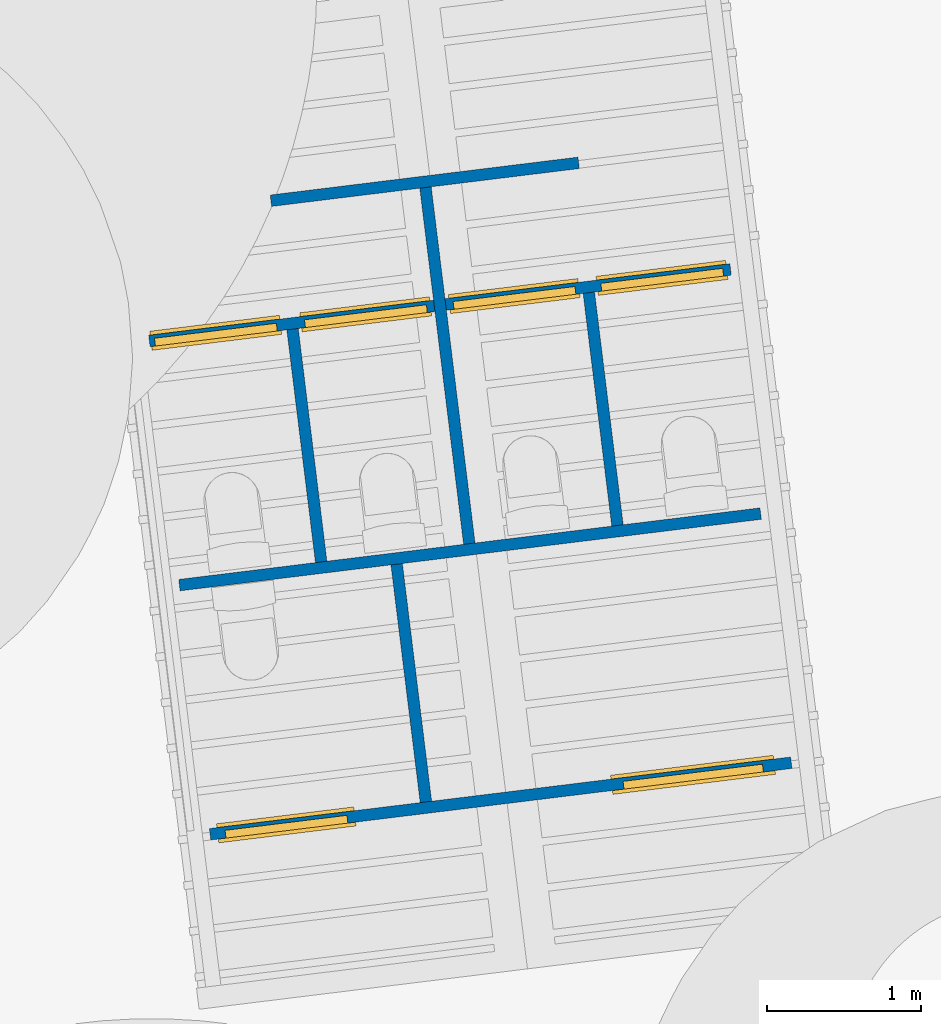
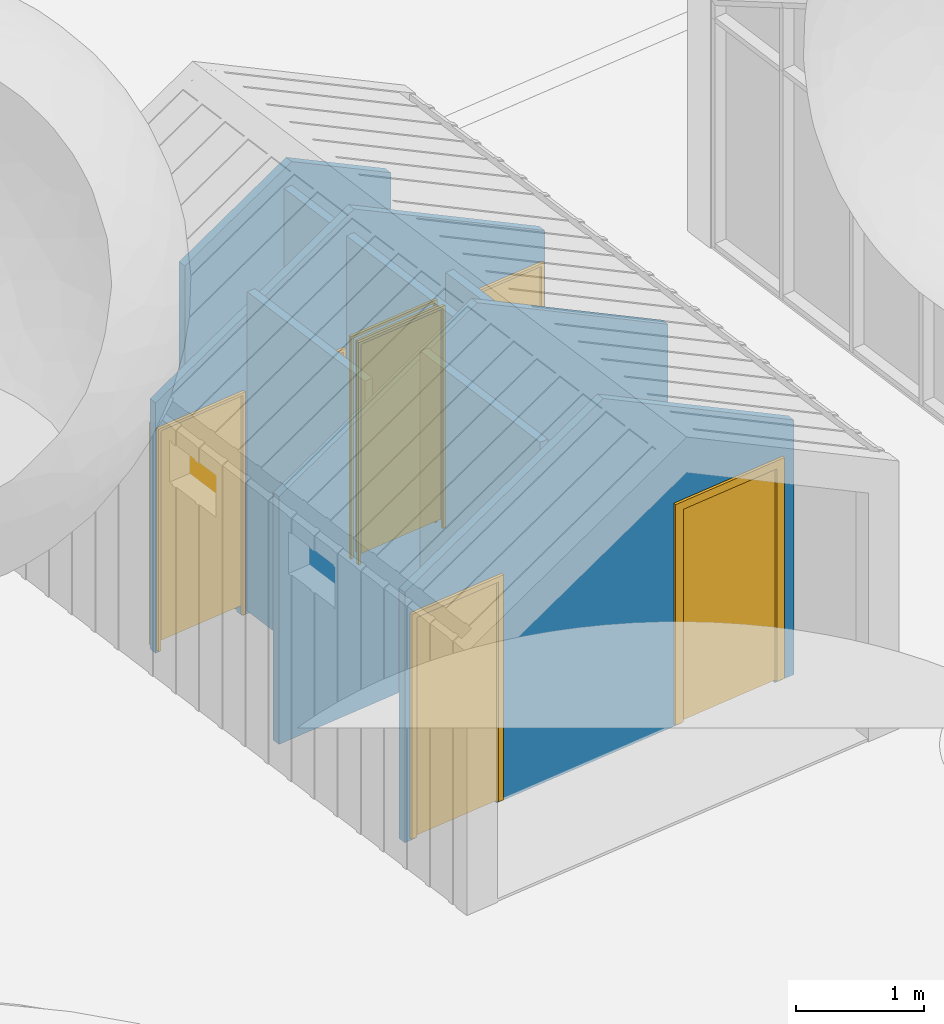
# One storey, part 24 of 75: 8 walls, 6 doors, 13 openings.
"""IFC2X3 building model written with IfcOpenShell, lengths in metres."""

import ifcopenshell
import ifcopenshell.guid

model = None  # the IFC model being written
_history = None  # IfcOwnerHistory: only IFC2X3 demands one
_inside = {}  # id of a spatial element -> (the spatial element, [elements in it])
_under = {}  # id of a project, library or spatial element -> (it, [spatial elements below it])
_declared = {}  # id of a project -> (the project, [libraries it declares])
_typed = {}  # id of a type object -> (the type object, [elements of that type])
_made_of = {}  # id of a material, layer set ... -> (it, [elements and type objects made of it])


def new_model(schema):
    """Start an empty IFC model of exactly this schema.

    Asked for "IFC4X3", IfcOpenShell would pick the latest addendum, in which some entities
    have other attributes; the version numbers below select the first issue.
    IFC2X3 requires an IfcOwnerHistory on every rooted entity: one is made here for all.
    """
    global model, _history
    if schema == "IFC4X3":
        model = ifcopenshell.file(schema_version=(4, 3, 0, 0))
    else:
        model = ifcopenshell.file(schema=schema)
    _inside.clear()
    _under.clear()
    _declared.clear()
    _typed.clear()
    _made_of.clear()
    _history = None
    if model.schema == "IFC2X3":
        org = make("IfcOrganization", Name="unknown")
        user = make(
            "IfcPersonAndOrganization",
            ThePerson=make("IfcPerson", FamilyName="unknown"),
            TheOrganization=org,
        )
        app = make(
            "IfcApplication",
            ApplicationDeveloper=org,
            Version="unknown",
            ApplicationFullName="unknown",
            ApplicationIdentifier="unknown",
        )
        _history = make(
            "IfcOwnerHistory",
            OwningUser=user,
            OwningApplication=app,
            ChangeAction="ADDED",
            CreationDate=0,
        )
    return model


def make(cls, **values):
    """One entity of the class cls with the attributes given. An attribute that is None is left unset."""
    return model.create_entity(
        cls, **{name: value for name, value in values.items() if value is not None}
    )


def entity(cls, *values):
    """Any entity or typed value of the class cls, its attributes in the order of the schema. None: left unset."""
    e = model.create_entity(cls)
    for i, value in enumerate(values):
        if value is not None:
            e[i] = value
    return e


def rooted(cls, **values):
    """An entity with a GlobalId (a new one), such as an element, a storey or a relation."""
    return make(cls, GlobalId=ifcopenshell.guid.new(), OwnerHistory=_history, **values)


def si_unit(unit_type, name, prefix=None):
    """IfcSIUnit, for example si_unit("LENGTHUNIT", "METRE", prefix="MILLI")."""
    return make("IfcSIUnit", UnitType=unit_type, Prefix=prefix, Name=name)


def converted_unit(unit_type, name, factor, base, dimensions=None, offset=None):
    """IfcConversionBasedUnit, such as the inch: factor (a typed value) times the base unit."""
    return make(
        "IfcConversionBasedUnit"
        if offset is None
        else "IfcConversionBasedUnitWithOffset",
        ConversionOffset=offset,
        Dimensions=None
        if dimensions is None
        else entity("IfcDimensionalExponents", *dimensions),
        UnitType=unit_type,
        Name=name,
        ConversionFactor=make(
            "IfcMeasureWithUnit", ValueComponent=factor, UnitComponent=base
        ),
    )


def derived_unit(unit_type, elements):
    """IfcDerivedUnit: a product of units, each with its exponent."""
    return make(
        "IfcDerivedUnit",
        Elements=[
            make("IfcDerivedUnitElement", Unit=unit, Exponent=power)
            for unit, power in elements
        ],
        UnitType=unit_type,
    )


def assignment(units):
    """IfcUnitAssignment: the units of a project."""
    return None if units is None else make("IfcUnitAssignment", Units=units)


def point(xyz):
    """IfcCartesianPoint."""
    return None if xyz is None else make("IfcCartesianPoint", Coordinates=xyz)


def direction(xyz):
    """IfcDirection."""
    return None if xyz is None else make("IfcDirection", DirectionRatios=xyz)


def frame(location, z_axis=None, x_axis=None):
    """IfcAxis2Placement3D, a coordinate frame: its origin and axes. An axis left out is left unset."""
    return make(
        "IfcAxis2Placement3D",
        Location=point(location),
        Axis=direction(z_axis),
        RefDirection=direction(x_axis),
    )


def frame_2d(location, x_axis=None):
    """IfcAxis2Placement2D, a coordinate frame in the plane: its origin and x axis."""
    return make(
        "IfcAxis2Placement2D", Location=point(location), RefDirection=direction(x_axis)
    )


def origin():
    """The frame at (0, 0, 0) with its axes left unset."""
    return frame((0.0, 0.0, 0.0))


def origin_2d_with_axis():
    """The frame at (0, 0) in the plane with the x axis (1, 0) written out."""
    return frame_2d((0.0, 0.0), x_axis=(1.0, 0.0))


def place(relative_to, where):
    """IfcLocalPlacement: puts the frame where relative to a parent placement (None: the world)."""
    return make(
        "IfcLocalPlacement", PlacementRelTo=relative_to, RelativePlacement=where
    )


def context(
    kind, dimensions, precision=None, world=None, true_north=None, identifier=None
):
    """IfcGeometricRepresentationContext, for example the 3D "Model" context."""
    return make(
        "IfcGeometricRepresentationContext",
        ContextIdentifier=identifier,
        ContextType=kind,
        CoordinateSpaceDimension=dimensions,
        Precision=precision,
        WorldCoordinateSystem=world,
        TrueNorth=true_north,
    )


def subcontext(parent, identifier, kind, view, scale=None):
    """IfcGeometricRepresentationSubContext, for example "Body" below "Model"."""
    return make(
        "IfcGeometricRepresentationSubContext",
        ContextIdentifier=identifier,
        ContextType=kind,
        ParentContext=parent,
        TargetScale=scale,
        TargetView=view,
    )


def project(units=None, contexts=None):
    """IfcProject with its units and contexts."""
    return rooted(
        "IfcProject",
        Name="project",
        RepresentationContexts=contexts,
        UnitsInContext=assignment(units),
    )


def spatial(cls, under=None, at=None, **own):
    """A site, building, storey or space (cls), placed at a placement, below another one or the project."""
    s = rooted(cls, ObjectPlacement=at, **own)
    if under is not None:
        _under.setdefault(under.id(), (under, []))[1].append(s)
    return s


def polyline(points):
    """IfcPolyline through the points."""
    return make("IfcPolyline", Points=[point(p) for p in points])


def profile(cls, at=None, kind="AREA", **sizes):
    """A parametric profile (cls). Its sizes go by their IFC names, for example OverallWidth=200.0."""
    return make(cls, ProfileType=kind, Position=at, **sizes)


def rectangle(**sizes):
    """IfcRectangleProfileDef."""
    return profile("IfcRectangleProfileDef", **sizes)


def outline(outer, holes=None, kind="AREA"):
    """IfcArbitraryClosedProfileDef: a profile drawn as a closed curve; with holes, ...WithVoids."""
    if holes is None:
        return make("IfcArbitraryClosedProfileDef", ProfileType=kind, OuterCurve=outer)
    return make(
        "IfcArbitraryProfileDefWithVoids",
        ProfileType=kind,
        OuterCurve=outer,
        InnerCurves=holes,
    )


def extrude(swept, where, along, depth):
    """IfcExtrudedAreaSolid: the profile swept, set in the frame where, extruded along a direction by depth."""
    return make(
        "IfcExtrudedAreaSolid",
        SweptArea=swept,
        Position=where,
        ExtrudedDirection=direction(along),
        Depth=depth,
    )


def clip(a, b, op="DIFFERENCE"):
    """IfcBooleanClippingResult: the solid a cut by the half space b."""
    return make(
        "IfcBooleanClippingResult", Operator=op, FirstOperand=a, SecondOperand=b
    )


def halfspace(plane, agree):
    """IfcHalfSpaceSolid: all space on one side of the plane z = 0 of the frame plane."""
    return make(
        "IfcHalfSpaceSolid",
        BaseSurface=make("IfcPlane", Position=plane),
        AgreementFlag=agree,
    )


def bounded_halfspace(plane, agree, where, boundary):
    """IfcPolygonalBoundedHalfSpace: a half space limited to a polygon's prism."""
    return make(
        "IfcPolygonalBoundedHalfSpace",
        BaseSurface=make("IfcPlane", Position=plane),
        AgreementFlag=agree,
        Position=where,
        PolygonalBoundary=boundary,
    )


def shape(context_of_items, identifier, shape_type, items):
    """IfcShapeRepresentation: the items that make up one representation, for example the "Body"."""
    return make(
        "IfcShapeRepresentation",
        ContextOfItems=context_of_items,
        RepresentationIdentifier=identifier,
        RepresentationType=shape_type,
        Items=items,
    )


def source(mapping_origin, context_of_items, identifier, shape_type, items):
    """IfcRepresentationMap: a shape defined once, which mapped items show again and again."""
    return make(
        "IfcRepresentationMap",
        MappingOrigin=mapping_origin,
        MappedRepresentation=shape(context_of_items, identifier, shape_type, items),
    )


def transform(
    local_origin,
    x_axis=None,
    y_axis=None,
    z_axis=None,
    scale=None,
    scale2=None,
    scale3=None,
    uniform=True,
):
    """IfcCartesianTransformationOperator3D, or its non-uniform kind. x_axis, y_axis, z_axis: its Axis1, 2, 3."""
    if uniform:
        return make(
            "IfcCartesianTransformationOperator3D",
            Axis1=direction(x_axis),
            Axis2=direction(y_axis),
            LocalOrigin=point(local_origin),
            Scale=scale,
            Axis3=direction(z_axis),
        )
    return make(
        "IfcCartesianTransformationOperator3DnonUniform",
        Axis1=direction(x_axis),
        Axis2=direction(y_axis),
        LocalOrigin=point(local_origin),
        Scale=scale,
        Axis3=direction(z_axis),
        Scale2=scale2,
        Scale3=scale3,
    )


def mapped(mapping_source, mapping_target):
    """IfcMappedItem: shows the shape of a source again, moved by a transform."""
    return make(
        "IfcMappedItem", MappingSource=mapping_source, MappingTarget=mapping_target
    )


def material(Name=None, Category=None):
    """IfcMaterial."""
    return make("IfcMaterial", Name=Name, Category=Category)


def material_list(materials):
    """IfcMaterialList."""
    return make("IfcMaterialList", Materials=materials)


def layer(
    of_material, thickness, ventilated=None, Name=None, Category=None, Priority=None
):
    """IfcMaterialLayer: one layer of a wall or slab, of a material (None: an air gap)."""
    return make(
        "IfcMaterialLayer",
        Material=of_material,
        LayerThickness=thickness,
        IsVentilated=ventilated,
        Name=Name,
        Category=Category,
        Priority=Priority,
    )


def layer_set(layers, Name=None):
    """IfcMaterialLayerSet."""
    return make("IfcMaterialLayerSet", MaterialLayers=layers, LayerSetName=Name)


def layer_usage(for_layer_set, set_direction, sense, offset, extent=None):
    """IfcMaterialLayerSetUsage: how a layer set lies in its element."""
    return make(
        "IfcMaterialLayerSetUsage",
        ForLayerSet=for_layer_set,
        LayerSetDirection=set_direction,
        DirectionSense=sense,
        OffsetFromReferenceLine=offset,
        ReferenceExtent=extent,
    )


def made_of(thing, what):
    """Note that an element or type object is made of a material, layer set ...; save() writes the relation."""
    if what is not None:
        _made_of.setdefault(what.id(), (what, []))[1].append(thing)
    return thing


def type_object(cls, material=None, **own):
    """A type object (cls), such as IfcWallType, which elements share."""
    return made_of(rooted(cls, **own), material)


def type_shapes(of_type, sources):
    """Give a type object the sources (RepresentationMaps) that its elements show as mapped items."""
    of_type.RepresentationMaps = sources


def element(
    cls,
    number,
    at=None,
    inside=None,
    cuts=None,
    type_object=None,
    material=None,
    context=None,
    identifier="Body",
    shape_type=None,
    held_by="IfcProductDefinitionShape",
    body=None,
    shapes=None,
    **own,
):
    """One element of the class cls, such as IfcWall. Its Tag is "e" and its number.

    at: its placement. inside: the storey or other place that contains it. cuts: it is an
    opening in that element (IfcRelVoidsElement). A single representation is given by context,
    identifier, shape_type and body (its items); several are given by shapes. held_by: the class
    of the entity that holds the representations. save() writes the other relations.
    """
    e = rooted(cls, Tag="e%d" % number, ObjectPlacement=at, **own)
    if body is not None:
        shapes = [shape(context, identifier, shape_type, body)]
    if shapes is not None:
        e.Representation = make(held_by, Representations=shapes)
    if inside is not None:
        _inside.setdefault(inside.id(), (inside, []))[1].append(e)
    if cuts is not None:
        rooted(
            "IfcRelVoidsElement", RelatingBuildingElement=cuts, RelatedOpeningElement=e
        )
    if type_object is not None:
        _typed.setdefault(type_object.id(), (type_object, []))[1].append(e)
    return made_of(e, material)


def fill(opening, filler):
    """IfcRelFillsElement: the door or window that sits in an opening."""
    return rooted(
        "IfcRelFillsElement",
        RelatingOpeningElement=opening,
        RelatedBuildingElement=filler,
    )


def aggregate(whole, parts):
    """IfcRelAggregates: a whole, such as a stair, and the parts it consists of."""
    return rooted("IfcRelAggregates", RelatingObject=whole, RelatedObjects=parts)


def save(model, path):
    """Write the relations noted so far, then the file.

    IfcRelAggregates (storeys below a building ...), IfcRelContainedInSpatialStructure (elements
    in a storey), IfcRelDefinesByType, IfcRelAssociatesMaterial and IfcRelDeclares: one each for
    every whole, place, type object, material and project.
    """
    for whole, parts in _under.values():
        aggregate(whole, parts)
    for where, things in _inside.values():
        rooted(
            "IfcRelContainedInSpatialStructure",
            RelatedElements=things,
            RelatingStructure=where,
        )
    for kind, things in _typed.values():
        rooted("IfcRelDefinesByType", RelatedObjects=things, RelatingType=kind)
    for what, things in _made_of.values():
        rooted("IfcRelAssociatesMaterial", RelatedObjects=things, RelatingMaterial=what)
    for by, libraries in _declared.values():
        rooted("IfcRelDeclares", RelatingContext=by, RelatedDefinitions=libraries)
    model.write(path)


model = new_model("IFC2X3")

# Units and contexts
model_context = context("Model", 3, precision=1e-05, world=origin(), true_north=direction((6.123031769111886e-17, 1.0)))
body_context = subcontext(model_context, "Body", "Model", "MODEL_VIEW")
ifc_project = project(units=[si_unit("LENGTHUNIT", "METRE"), si_unit("AREAUNIT", "SQUARE_METRE"), si_unit("VOLUMEUNIT", "CUBIC_METRE"), converted_unit("PLANEANGLEUNIT", "DEGREE", entity("IfcRatioMeasure", 0.017453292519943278), si_unit("PLANEANGLEUNIT", "RADIAN"), dimensions=[0, 0, 0, 0, 0, 0, 0]), si_unit("MASSUNIT", "GRAM", prefix="KILO"), derived_unit("MASSDENSITYUNIT", [(si_unit("MASSUNIT", "GRAM", prefix="KILO"), 1), (si_unit("LENGTHUNIT", "METRE"), -3)]), derived_unit("IONCONCENTRATIONUNIT", [(si_unit("MASSUNIT", "GRAM", prefix="KILO"), 1), (si_unit("LENGTHUNIT", "METRE"), -3)]), derived_unit("MOMENTOFINERTIAUNIT", [(si_unit("LENGTHUNIT", "METRE"), 4)]), si_unit("TIMEUNIT", "SECOND"), si_unit("FREQUENCYUNIT", "HERTZ"), si_unit("THERMODYNAMICTEMPERATUREUNIT", "DEGREE_CELSIUS"), derived_unit("THERMALTRANSMITTANCEUNIT", [(si_unit("MASSUNIT", "GRAM", prefix="KILO"), 1), (si_unit("THERMODYNAMICTEMPERATUREUNIT", "KELVIN"), -1), (si_unit("TIMEUNIT", "SECOND"), -3)]), derived_unit("THERMALCONDUCTANCEUNIT", [(si_unit("MASSUNIT", "GRAM", prefix="KILO"), 1), (si_unit("THERMODYNAMICTEMPERATUREUNIT", "KELVIN"), -1), (si_unit("TIMEUNIT", "SECOND"), -3), (si_unit("LENGTHUNIT", "METRE"), 1)]), derived_unit("VOLUMETRICFLOWRATEUNIT", [(si_unit("LENGTHUNIT", "METRE"), 3), (si_unit("TIMEUNIT", "SECOND"), -1)]), derived_unit("MASSFLOWRATEUNIT", [(si_unit("MASSUNIT", "GRAM", prefix="KILO"), 1), (si_unit("TIMEUNIT", "SECOND"), -1)]), derived_unit("ROTATIONALFREQUENCYUNIT", [(si_unit("TIMEUNIT", "SECOND"), -1)]), si_unit("ELECTRICCURRENTUNIT", "AMPERE"), si_unit("ELECTRICVOLTAGEUNIT", "VOLT"), si_unit("POWERUNIT", "WATT"), si_unit("FORCEUNIT", "NEWTON", prefix="KILO"), si_unit("ILLUMINANCEUNIT", "LUX"), si_unit("LUMINOUSFLUXUNIT", "LUMEN"), si_unit("LUMINOUSINTENSITYUNIT", "CANDELA"), derived_unit("USERDEFINED", [(si_unit("MASSUNIT", "GRAM", prefix="KILO"), -1), (si_unit("LENGTHUNIT", "METRE"), -2), (si_unit("TIMEUNIT", "SECOND"), 3), (si_unit("LUMINOUSFLUXUNIT", "LUMEN"), 1)]), derived_unit("USERDEFINED", [(si_unit("MASSUNIT", "GRAM", prefix="KILO"), 1), (si_unit("TIMEUNIT", "SECOND"), -3), (si_unit("LENGTHUNIT", "METRE"), 3), (si_unit("ELECTRICCURRENTUNIT", "AMPERE"), -2)]), derived_unit("SOUNDPOWERUNIT", [(si_unit("MASSUNIT", "GRAM", prefix="KILO"), 1), (si_unit("TIMEUNIT", "SECOND"), -3), (si_unit("LENGTHUNIT", "METRE"), 2)]), derived_unit("SOUNDPRESSUREUNIT", [(si_unit("MASSUNIT", "GRAM", prefix="KILO"), 1), (si_unit("LENGTHUNIT", "METRE"), -1), (si_unit("TIMEUNIT", "SECOND"), -2)]), derived_unit("LINEARVELOCITYUNIT", [(si_unit("LENGTHUNIT", "METRE"), 1), (si_unit("TIMEUNIT", "SECOND"), -1)]), si_unit("PRESSUREUNIT", "PASCAL"), derived_unit("USERDEFINED", [(si_unit("MASSUNIT", "GRAM", prefix="KILO"), 1), (si_unit("LENGTHUNIT", "METRE"), -2), (si_unit("TIMEUNIT", "SECOND"), -2)]), derived_unit("LINEARFORCEUNIT", [(si_unit("MASSUNIT", "GRAM", prefix="KILO"), 1), (si_unit("TIMEUNIT", "SECOND"), -2)]), derived_unit("PLANARFORCEUNIT", [(si_unit("MASSUNIT", "GRAM", prefix="KILO"), 1), (si_unit("LENGTHUNIT", "METRE"), -1), (si_unit("TIMEUNIT", "SECOND"), -2)]), derived_unit("SPECIFICHEATCAPACITYUNIT", [(si_unit("THERMODYNAMICTEMPERATUREUNIT", "KELVIN"), -1), (si_unit("LENGTHUNIT", "METRE"), 2), (si_unit("TIMEUNIT", "SECOND"), -2)]), derived_unit("HEATINGVALUEUNIT", [(si_unit("LENGTHUNIT", "METRE"), 2), (si_unit("TIMEUNIT", "SECOND"), -2)]), derived_unit("VAPORPERMEABILITYUNIT", [(si_unit("LENGTHUNIT", "METRE"), -1), (si_unit("TIMEUNIT", "SECOND"), 1)]), derived_unit("DYNAMICVISCOSITYUNIT", [(si_unit("MASSUNIT", "GRAM", prefix="KILO"), 1), (si_unit("TIMEUNIT", "SECOND"), -1), (si_unit("LENGTHUNIT", "METRE"), -1)]), derived_unit("THERMALEXPANSIONCOEFFICIENTUNIT", [(si_unit("THERMODYNAMICTEMPERATUREUNIT", "KELVIN"), -1)]), derived_unit("MODULUSOFELASTICITYUNIT", [(si_unit("MASSUNIT", "GRAM", prefix="KILO"), 1), (si_unit("LENGTHUNIT", "METRE"), -1), (si_unit("TIMEUNIT", "SECOND"), -2)]), derived_unit("ISOTHERMALMOISTURECAPACITYUNIT", [(si_unit("LENGTHUNIT", "METRE"), 3), (si_unit("MASSUNIT", "GRAM", prefix="KILO"), -1)]), derived_unit("MOISTUREDIFFUSIVITYUNIT", [(si_unit("TIMEUNIT", "SECOND"), -1), (si_unit("LENGTHUNIT", "METRE"), 2)])], contexts=[model_context])

# Site, building, storey
site_placement = place(None, origin())
site = spatial("IfcSite", under=ifc_project, at=site_placement, Name="Default", CompositionType="ELEMENT")
building_placement = place(site_placement, origin())
building = spatial("IfcBuilding", under=site, at=building_placement, Name="Projeto", CompositionType="ELEMENT")
storey_placement = place(building_placement, origin())
storey = spatial("IfcBuildingStorey", under=building, at=storey_placement, Name="Nível 1", CompositionType="ELEMENT", Elevation=0.0)

# Wall
ifc_material_1 = material(Name="<Unnamed>")
ifc_layer_1 = layer(ifc_material_1, 0.03)
ifc_layer_2 = layer(ifc_material_1, 0.015)
ifc_layer_3 = layer(ifc_material_1, 0.03)
ifc_layer_set = layer_set([ifc_layer_1, ifc_layer_2, ifc_layer_3], Name="Parede básica:7,5cm")
ifc_layer_usage_1 = layer_usage(ifc_layer_set, "AXIS2", "NEGATIVE", 0.0375)
wall_type = type_object("IfcWallType", Name="Parede básica:7,5cm", PredefinedType="STANDARD", material=ifc_layer_set)
wall_1_placement = place(storey_placement, frame((-18.2784630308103, 28.71901376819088, -2.5749999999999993), z_axis=(0.0, 0.0, 1.0), x_axis=(0.9925113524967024, 0.12215242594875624, 0.0)))
element("IfcWallStandardCase", 1, at=wall_1_placement, inside=storey, type_object=wall_type, material=ifc_layer_usage_1, Name="Parede básica:7,5cm", ObjectType="Parede básica:7,5cm", context=body_context, shape_type="Clipping", body=[
    clip(clip(clip(extrude(rectangle(XDim=3.814523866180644, YDim=0.07499999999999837, at=frame_2d((1.907261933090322, -1.6306400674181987e-15), x_axis=(-1.0, 0.0))), origin(), (0.0, 0.0, 1.0), 3.4000000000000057), bounded_halfspace(frame((3.814523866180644, -0.03749999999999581, 0.0), z_axis=(0.0, 0.0, 1.0), x_axis=(0.0, -1.0, 0.0)), True, frame((3.814523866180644, -0.03749999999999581, 0.0), z_axis=(0.0, 0.0, 1.0), x_axis=(0.0, -1.0, 0.0)), polyline([(0.0, 0.0), (-0.07499999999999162, 0.0), (-0.07499999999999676, -0.8975000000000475), (-0.07499999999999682, -0.9725000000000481), (-0.07499999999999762, -1.8697619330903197), (-0.07499999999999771, -1.94476193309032), (-0.07499999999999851, -2.8420238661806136), (-0.07499999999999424, -2.9170238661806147), (-0.07499999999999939, -3.814523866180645), (0.0, -3.8145238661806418), (0.0, 0.0)]))), halfspace(frame((0.0, -0.03750000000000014, 2.3659517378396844), z_axis=(-0.46947156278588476, 0.0, 0.8829475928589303), x_axis=(0.0, 1.0, 0.0)), False)), halfspace(frame((1.9447619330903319, -0.03750000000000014, 3.4000000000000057), z_axis=(0.4694715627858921, 0.0, 0.8829475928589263), x_axis=(0.0, 1.0, 0.0)), False)),
])

# Wall, openings, doors
wall_2_placement = place(storey_placement, frame((-18.07874381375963, 27.096257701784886, -2.6), z_axis=(0.0, 0.0, 1.0), x_axis=(0.9925113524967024, 0.12215242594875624, 0.0)))
wall_2 = element("IfcWallStandardCase", 2, at=wall_2_placement, inside=storey, type_object=wall_type, material=ifc_layer_usage_1, Name="Parede básica:7,5cm", ObjectType="Parede básica:7,5cm", context=body_context, shape_type="Clipping", body=[
    clip(clip(extrude(rectangle(XDim=3.8145238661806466, YDim=0.07499999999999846, at=frame_2d((1.9072619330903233, 4.0245584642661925e-16), x_axis=(-1.0, 0.0))), origin(), (0.0, 0.0, 1.0), 3.4250000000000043), halfspace(frame((0.0, -0.03749999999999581, 2.3909517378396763), z_axis=(-0.46947156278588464, 0.0, 0.8829475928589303), x_axis=(0.0, 1.0, 0.0)), False)), halfspace(frame((1.9447619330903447, -0.03749999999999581, 3.4250000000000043), z_axis=(0.46947156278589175, 0.0, 0.8829475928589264), x_axis=(0.0, 1.0, 0.0)), False)),
])
opening_1_placement = place(wall_2_placement, origin())
element("IfcOpeningElement", 3, at=opening_1_placement, cuts=wall_2, Name="Parede básica:7,5cm", ObjectType="Opening", context=body_context, shape_type="SweptSolid", body=[
    extrude(rectangle(XDim=2.124999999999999, YDim=0.8000000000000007, at=frame_2d((0.0, -3.3306690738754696e-16), x_axis=(0.0, 1.0))), frame((0.49999999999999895, 0.03750000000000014, 1.0625), z_axis=(0.0, -1.0, 0.0), x_axis=(1.0, 0.0, 0.0)), (0.0, 0.0, 1.0), 0.075),
])
opening_2_placement = place(wall_2_placement, origin())
element("IfcOpeningElement", 4, at=opening_2_placement, cuts=wall_2, Name="Parede básica:7,5cm", ObjectType="Opening", context=body_context, shape_type="SweptSolid", body=[
    extrude(rectangle(XDim=2.0569999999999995, YDim=0.914999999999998, at=frame_2d((0.0, -3.3306690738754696e-16), x_axis=(0.0, 1.0))), frame((3.1695238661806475, 0.03750000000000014, 1.0285000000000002), z_axis=(0.0, -1.0, 0.0), x_axis=(1.0, 0.0, 0.0)), (0.0, 0.0, 1.0), 0.07500000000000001),
])
opening_3_placement = place(wall_2_placement, frame((3.6270238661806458, 0.037500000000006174, 0.025000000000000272)))
opening_3 = element("IfcOpeningElement", 5, at=opening_3_placement, cuts=wall_2, Name="M_Folha única:0915 x 2032mm:1", ObjectType="Opening", context=body_context, shape_type="SweptSolid", body=[
    extrude(rectangle(XDim=0.9149999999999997, YDim=2.0319999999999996, at=frame_2d((1.0159999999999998, 0.4575000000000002), x_axis=(0.0, -1.0))), frame((0.0, 0.0, 0.0), z_axis=(0.0, -1.0, 0.0), x_axis=(0.0, 0.0, 1.0)), (0.0, 0.0, 1.0), 0.075),
])
opening_4_placement = place(wall_2_placement, frame((0.8999999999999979, 0.03750000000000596, 0.025000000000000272)))
opening_4 = element("IfcOpeningElement", 6, at=opening_4_placement, cuts=wall_2, Name="M_Folha única:0800 x 2100mm:1", ObjectType="Opening", context=body_context, shape_type="SweptSolid", body=[
    extrude(rectangle(XDim=0.7999999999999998, YDim=2.099999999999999, at=frame_2d((1.0499999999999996, 0.3999999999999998), x_axis=(0.0, 1.0))), frame((0.0, 0.0, 0.0), z_axis=(0.0, -1.0, 0.0), x_axis=(0.0, 0.0, 1.0)), (0.0, 0.0, 1.0), 0.075),
])
ifc_material_2 = material(Name="Porta - Batente")
ifc_material_3 = material(Name="Porta - Painel")
ifc_material_list = material_list([ifc_material_2, ifc_material_3])
door_style_1 = type_object("IfcDoorStyle", Name="M_Folha única:0800 x 2100mm", ConstructionType="NOTDEFINED", OperationType="NOTDEFINED", ParameterTakesPrecedence=False, Sizeable=False, material=ifc_material_list)
shared_shape_1 = source(origin(), body_context, "Body", "SweptSolid", [
    extrude(outline(polyline([(-0.45, -1.0874999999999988), (0.4499999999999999, -1.0874999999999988), (0.4499999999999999, 1.0625000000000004), (0.3999999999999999, 1.0625000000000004), (0.3999999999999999, -1.0375000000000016), (-0.39999999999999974, -1.0375000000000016), (-0.39999999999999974, 1.0625000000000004), (-0.45, 1.0625000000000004), (-0.45, -1.0874999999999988)])), frame((0.40000000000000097, 0.07500000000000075, 1.0625000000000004), z_axis=(0.0, 1.0, 0.0), x_axis=(1.0, 0.0, 0.0)), (0.0, 0.0, 1.0), 0.024999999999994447),
    extrude(outline(polyline([(-1.0874999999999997, -0.4499999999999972), (1.0624999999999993, -0.4499999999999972), (1.0624999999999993, -0.40000000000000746), (-1.0374999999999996, -0.40000000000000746), (-1.0374999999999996, 0.4000000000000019), (1.0624999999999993, 0.4000000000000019), (1.0624999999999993, 0.45000000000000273), (-1.0874999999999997, 0.45000000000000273), (-1.0874999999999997, -0.4499999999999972)])), frame((0.4000000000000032, -0.025000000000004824, 1.0624999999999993), z_axis=(0.0, 1.0, 0.0), x_axis=(0.0, 0.0, -1.0)), (0.0, 0.0, 1.0), 0.02500000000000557),
    extrude(rectangle(XDim=0.051000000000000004, YDim=0.7999999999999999, at=origin_2d_with_axis()), frame((0.4000000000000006, 0.049500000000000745, 0.0), z_axis=(0.0, 0.0, 1.0), x_axis=(0.0, 1.0, 0.0)), (0.0, 0.0, 1.0), 2.099999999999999),
])
type_shapes(door_style_1, [shared_shape_1])
door_1_placement = place(opening_4_placement, frame((0.0, 0.0, 0.0), z_axis=(0.0, 0.0, 1.0), x_axis=(-1.0, 0.0, 0.0)))
door_1 = element("IfcDoor", 7, at=door_1_placement, inside=storey, type_object=door_style_1, material=ifc_material_list, Name="M_Folha única:0800 x 2100mm", ObjectType="M_Folha única:0800 x 2100mm", OverallHeight=2.099999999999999, OverallWidth=0.7999999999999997, context=body_context, shape_type="MappedRepresentation", body=[
    mapped(shared_shape_1, transform((0.0, 0.0, 0.0), scale=1.0)),
])
fill(opening_4, door_1)
door_style_2 = type_object("IfcDoorStyle", Name="M_Folha única:0915 x 2032mm", ConstructionType="NOTDEFINED", OperationType="NOTDEFINED", ParameterTakesPrecedence=False, Sizeable=False, material=ifc_material_list)
shared_shape_2 = source(origin(), body_context, "Body", "SweptSolid", [
    extrude(outline(polyline([(-0.5334999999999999, -1.0729999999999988), (0.5334999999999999, -1.0729999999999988), (0.5334999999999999, 1.0350000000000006), (0.4574999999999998, 1.0350000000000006), (0.4574999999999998, -0.9970000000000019), (-0.4574999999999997, -0.9970000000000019), (-0.4574999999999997, 1.0350000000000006), (-0.5334999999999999, 1.0350000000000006), (-0.5334999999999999, -1.0729999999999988)])), frame((0.4575000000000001, 0.09999999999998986, 1.0350000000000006), z_axis=(0.0, -1.0, 0.0), x_axis=(-1.0, 0.0, 0.0)), (0.0, 0.0, 1.0), 0.024999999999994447),
    extrude(outline(polyline([(-1.0729999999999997, -0.5334999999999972), (1.0349999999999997, -0.5334999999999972), (1.0349999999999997, -0.4575000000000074), (-0.9969999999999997, -0.4575000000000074), (-0.9969999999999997, 0.45750000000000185), (1.0349999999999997, 0.45750000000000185), (1.0349999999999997, 0.5335000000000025), (-1.0729999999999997, 0.5335000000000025), (-1.0729999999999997, -0.5334999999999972)])), frame((0.4574999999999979, 0.0, 1.0349999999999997), z_axis=(0.0, -1.0, 0.0), x_axis=(0.0, 0.0, -1.0)), (0.0, 0.0, 1.0), 0.02500000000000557),
    extrude(rectangle(XDim=0.9149999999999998, YDim=0.051000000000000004, at=origin_2d_with_axis()), frame((0.4575000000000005, 0.049499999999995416, 0.0)), (0.0, 0.0, 1.0), 2.0319999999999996),
])
type_shapes(door_style_2, [shared_shape_2])
door_2_placement = place(opening_3_placement, frame((0.0, 0.0, 0.0), z_axis=(0.0, 0.0, 1.0), x_axis=(-1.0, 0.0, 0.0)))
door_2 = element("IfcDoor", 8, at=door_2_placement, inside=storey, type_object=door_style_2, material=ifc_material_list, Name="M_Folha única:0915 x 2032mm", ObjectType="M_Folha única:0915 x 2032mm", OverallHeight=2.0319999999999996, OverallWidth=0.9150000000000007, context=body_context, shape_type="MappedRepresentation", body=[
    mapped(shared_shape_2, transform((0.0, 0.0, 0.0), scale=1.0)),
])
fill(opening_3, door_2)

# Walls
wall_3_placement = place(storey_placement, frame((-16.86339369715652, 28.855389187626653, -2.3999999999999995), z_axis=(0.0, 0.0, 1.0), x_axis=(0.12215242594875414, -0.9925113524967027, 0.0)))
element("IfcWallStandardCase", 9, at=wall_3_placement, inside=storey, type_object=wall_type, material=ifc_layer_usage_1, Name="Parede básica:7,5cm", ObjectType="Parede básica:7,5cm", context=body_context, shape_type="SweptSolid", body=[
    extrude(rectangle(XDim=1.5600000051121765, YDim=0.07499999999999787, at=frame_2d((0.7800000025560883, -7.563394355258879e-16), x_axis=(-1.0, 0.0))), origin(), (0.0, 0.0, 1.0), 2.9999999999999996),
])
ifc_layer_usage_2 = layer_usage(ifc_layer_set, "AXIS2", "POSITIVE", -0.0375)
wall_4_placement = place(storey_placement, frame((-16.675595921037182, 31.30920489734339, -2.5749999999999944), z_axis=(0.0, 0.0, 1.0), x_axis=(0.12215242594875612, -0.9925113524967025, 0.0)))
element("IfcWallStandardCase", 10, at=wall_4_placement, inside=storey, type_object=wall_type, material=ifc_layer_usage_2, Name="Parede básica:7,5cm", ObjectType="Parede básica:7,5cm", context=body_context, shape_type="SweptSolid", body=[
    extrude(rectangle(XDim=2.337499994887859, YDim=0.0749999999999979, at=frame_2d((1.1687499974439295, 1.5612511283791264e-16), x_axis=(-1.0, 0.0))), origin(), (0.0, 0.0, 1.0), 3.1749999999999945),
])
wall_5_placement = place(storey_placement, frame((-17.54163346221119, 30.386506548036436, -2.5749999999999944), z_axis=(0.0, 0.0, 1.0), x_axis=(0.12215242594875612, -0.9925113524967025, 0.0)))
element("IfcWallStandardCase", 11, at=wall_5_placement, inside=storey, type_object=wall_type, material=ifc_layer_usage_2, Name="Parede básica:7,5cm", ObjectType="Parede básica:7,5cm", context=body_context, shape_type="SweptSolid", body=[
    extrude(rectangle(XDim=1.5274999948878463, YDim=0.07499999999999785, at=frame_2d((0.7637499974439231, -3.677613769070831e-16), x_axis=(-1.0, 0.0))), origin(), (0.0, 0.0, 1.0), 3.05),
])
wall_6_placement = place(storey_placement, frame((-15.611671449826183, 30.62403485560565, -2.5749999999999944), z_axis=(0.0, 0.0, 1.0), x_axis=(0.12215242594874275, -0.9925113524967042, 0.0)))
element("IfcWallStandardCase", 12, at=wall_6_placement, inside=storey, type_object=wall_type, material=ifc_layer_usage_1, Name="Parede básica:7,5cm", ObjectType="Parede básica:7,5cm", context=body_context, shape_type="SweptSolid", body=[
    extrude(rectangle(XDim=1.5274999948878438, YDim=0.0749999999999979, at=frame_2d((0.7637499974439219, 2.740863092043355e-16), x_axis=(-1.0, 0.0))), origin(), (0.0, 0.0, 1.0), 2.4149999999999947),
])

# Wall, openings, doors
wall_7_placement = place(storey_placement, frame((-18.474212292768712, 30.30951320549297, -2.6), z_axis=(0.0, 0.0, 1.0), x_axis=(0.9925113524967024, 0.12215242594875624, 0.0)))
wall_7 = element("IfcWallStandardCase", 13, at=wall_7_placement, inside=storey, type_object=wall_type, material=ifc_layer_usage_1, Name="Parede básica:7,5cm", ObjectType="Parede básica:7,5cm", context=body_context, shape_type="Clipping", body=[
    clip(clip(extrude(rectangle(XDim=3.8145238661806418, YDim=0.07499999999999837, at=frame_2d((1.9072619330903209, -1.4953316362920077e-15), x_axis=(-1.0, 0.0))), origin(), (0.0, 0.0, 1.0), 3.4250000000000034), halfspace(frame((1.9447619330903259, -0.03750000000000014, 3.4250000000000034), z_axis=(0.46947156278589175, 0.0, 0.8829475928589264), x_axis=(0.0, 1.0, 0.0)), False)), halfspace(frame((0.0, -0.03750000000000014, 2.390951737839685), z_axis=(-0.46947156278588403, 0.0, 0.8829475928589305), x_axis=(0.0, 1.0, 0.0)), False)),
])
opening_5_placement = place(storey_placement, frame((-18.474212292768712, 30.30951320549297, -2.6), z_axis=(0.0, 0.0, 1.0), x_axis=(0.9925113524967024, 0.12215242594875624, 0.0)))
element("IfcOpeningElement", 14, at=opening_5_placement, cuts=wall_7, Name="Parede básica:7,5cm:1", ObjectType="Opening", context=body_context, shape_type="SweptSolid", body=[
    extrude(rectangle(XDim=0.07499999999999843, YDim=0.07500000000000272, at=frame_2d((1.7486012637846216e-15, -3.490263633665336e-15), x_axis=(1.0, 0.0))), frame((1.907261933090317, 0.0, 0.025000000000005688), z_axis=(0.0, 0.0, 1.0), x_axis=(0.0, -1.0, 0.0)), (0.0, 0.0, 1.0), 3.174999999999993),
])
opening_6_placement = place(wall_7_placement, origin())
element("IfcOpeningElement", 15, at=opening_6_placement, cuts=wall_7, Name="Parede básica:7,5cm", ObjectType="Opening", context=body_context, shape_type="SweptSolid", body=[
    extrude(rectangle(XDim=2.124999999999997, YDim=0.8150000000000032, at=frame_2d((2.7755575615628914e-16, 2.220446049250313e-16), x_axis=(0.0, 1.0))), frame((0.44273806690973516, 0.03749999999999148, 1.0624999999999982), z_axis=(0.0, -1.0, 0.0), x_axis=(1.0, 0.0, 0.0)), (0.0, 0.0, 1.0), 0.07500000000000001),
])
opening_7_placement = place(wall_7_placement, origin())
element("IfcOpeningElement", 16, at=opening_7_placement, cuts=wall_7, Name="Parede básica:7,5cm", ObjectType="Opening", context=body_context, shape_type="SweptSolid", body=[
    extrude(rectangle(XDim=2.124999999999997, YDim=0.8000000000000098, at=frame_2d((-2.498001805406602e-16, -1.1102230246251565e-16), x_axis=(0.0, 1.0))), frame((1.4197619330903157, 0.03750000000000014, 1.0624999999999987), z_axis=(0.0, -1.0, 0.0), x_axis=(1.0, 0.0, 0.0)), (0.0, 0.0, 1.0), 0.07500000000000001),
])
opening_8_placement = place(wall_7_placement, origin())
element("IfcOpeningElement", 17, at=opening_8_placement, cuts=wall_7, Name="Parede básica:7,5cm", ObjectType="Opening", context=body_context, shape_type="SweptSolid", body=[
    extrude(rectangle(XDim=2.1249999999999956, YDim=0.810000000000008, at=frame_2d((0.0, 4.440892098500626e-16), x_axis=(0.0, 1.0))), frame((2.39976193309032, 0.03750000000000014, 1.0624999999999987), z_axis=(0.0, -1.0, 0.0), x_axis=(1.0, 0.0, 0.0)), (0.0, 0.0, 1.0), 0.075),
])
opening_9_placement = place(wall_7_placement, origin())
element("IfcOpeningElement", 18, at=opening_9_placement, cuts=wall_7, Name="Parede básica:7,5cm", ObjectType="Opening", context=body_context, shape_type="SweptSolid", body=[
    extrude(rectangle(XDim=2.124999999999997, YDim=0.8100000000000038, at=frame_2d((0.0, 2.220446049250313e-16), x_axis=(0.0, 1.0))), frame((3.3592857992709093, 0.03749999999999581, 1.0624999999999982), z_axis=(0.0, -1.0, 0.0), x_axis=(1.0, 0.0, 0.0)), (0.0, 0.0, 1.0), 0.07500000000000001),
])
opening_10_placement = place(wall_7_placement, frame((3.7642857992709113, 0.03750000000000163, 0.025000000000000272)))
opening_10 = element("IfcOpeningElement", 19, at=opening_10_placement, cuts=wall_7, Name="M_porta pvc:0800 x 2100mm:1", ObjectType="Opening", context=body_context, shape_type="SweptSolid", body=[
    extrude(rectangle(XDim=0.7999999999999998, YDim=2.099999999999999, at=frame_2d((1.0499999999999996, 0.3999999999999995), x_axis=(0.0, 1.0))), frame((0.0, 0.0, 0.0), z_axis=(0.0, -1.0, 0.0), x_axis=(0.0, 0.0, 1.0)), (0.0, 0.0, 1.0), 0.075),
])
opening_11_placement = place(wall_7_placement, frame((2.794761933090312, 0.03750000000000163, 0.025000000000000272)))
opening_11 = element("IfcOpeningElement", 20, at=opening_11_placement, cuts=wall_7, Name="M_porta pvc:0800 x 2100mm:1", ObjectType="Opening", context=body_context, shape_type="SweptSolid", body=[
    extrude(rectangle(XDim=0.7999999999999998, YDim=2.099999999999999, at=frame_2d((1.0499999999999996, 0.4000000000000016), x_axis=(0.0, -1.0))), frame((0.0, 0.0, 0.0), z_axis=(0.0, -1.0, 0.0), x_axis=(0.0, 0.0, 1.0)), (0.0, 0.0, 1.0), 0.075),
])
opening_12_placement = place(wall_7_placement, frame((0.835238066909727, 0.03750000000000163, 0.025000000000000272)))
opening_12 = element("IfcOpeningElement", 21, at=opening_12_placement, cuts=wall_7, Name="M_porta pvc:0800 x 2100mm:1", ObjectType="Opening", context=body_context, shape_type="SweptSolid", body=[
    extrude(rectangle(XDim=0.7999999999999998, YDim=2.099999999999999, at=frame_2d((1.0499999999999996, 0.4000000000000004), x_axis=(0.0, -1.0))), frame((0.0, 0.0, 0.0), z_axis=(0.0, -1.0, 0.0), x_axis=(0.0, 0.0, 1.0)), (0.0, 0.0, 1.0), 0.075),
])
opening_13_placement = place(wall_7_placement, frame((1.819761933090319, 0.03750000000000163, 0.025000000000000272)))
opening_13 = element("IfcOpeningElement", 22, at=opening_13_placement, cuts=wall_7, Name="M_porta pvc:0800 x 2100mm:1", ObjectType="Opening", context=body_context, shape_type="SweptSolid", body=[
    extrude(rectangle(XDim=0.7999999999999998, YDim=2.099999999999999, at=frame_2d((1.0499999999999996, 0.3999999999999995), x_axis=(0.0, 1.0))), frame((0.0, 0.0, 0.0), z_axis=(0.0, -1.0, 0.0), x_axis=(0.0, 0.0, 1.0)), (0.0, 0.0, 1.0), 0.075),
])
door_style_3 = type_object("IfcDoorStyle", Name="M_porta pvc:0800 x 2100mm", ConstructionType="NOTDEFINED", OperationType="NOTDEFINED", ParameterTakesPrecedence=False, Sizeable=False, material=ifc_material_list)
shared_shape_3 = source(origin(), body_context, "Body", "SweptSolid", [
    extrude(outline(polyline([(-1.056250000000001, -0.4249999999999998), (1.068750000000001, -0.4249999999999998), (1.068750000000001, 0.4249999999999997), (-1.056250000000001, 0.4249999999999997), (-1.056250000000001, 0.39999999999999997), (1.043750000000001, 0.39999999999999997), (1.043750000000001, -0.39999999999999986), (-1.056250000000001, -0.39999999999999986), (-1.056250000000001, -0.4249999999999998)])), frame((0.400000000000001, 0.07500000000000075, 1.056250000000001), z_axis=(0.0, 1.0, 0.0), x_axis=(0.0, 0.0, 1.0)), (0.0, 0.0, 1.0), 0.024999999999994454),
    extrude(outline(polyline([(-1.0562499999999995, -0.40000000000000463), (-1.0562499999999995, -0.42500000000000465), (1.0687499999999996, -0.42500000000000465), (1.0687499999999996, 0.42500000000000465), (-1.0562499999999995, 0.42500000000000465), (-1.0562499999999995, 0.40000000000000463), (1.0437499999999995, 0.40000000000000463), (1.0437499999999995, -0.40000000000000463), (-1.0562499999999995, -0.40000000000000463)])), frame((0.4000000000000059, -0.02500000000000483, 1.0562499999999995), z_axis=(0.0, -1.0, 0.0), x_axis=(0.0, 0.0, 1.0)), (0.0, 0.0, -1.0), 0.02500000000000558),
    extrude(rectangle(XDim=0.051000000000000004, YDim=0.7999999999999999, at=origin_2d_with_axis()), frame((0.4000000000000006, 0.049500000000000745, 0.0774955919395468), z_axis=(0.0, 0.0, 1.0), x_axis=(0.0, 1.0, 0.0)), (0.0, 0.0, 1.0), 2.022504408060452),
])
type_shapes(door_style_3, [shared_shape_3])
door_3_placement = place(opening_13_placement, frame((0.0, 0.0, 0.0), z_axis=(0.0, 0.0, 1.0), x_axis=(-1.0, 0.0, 0.0)))
door_3 = element("IfcDoor", 23, at=door_3_placement, inside=storey, type_object=door_style_3, material=ifc_material_list, Name="M_porta pvc:0800 x 2100mm", ObjectType="M_porta pvc:0800 x 2100mm", OverallHeight=2.099999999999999, OverallWidth=0.7999999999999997, context=body_context, shape_type="MappedRepresentation", body=[
    mapped(shared_shape_3, transform((0.0, 0.0, 0.0), scale=1.0)),
])
fill(opening_13, door_3)
door_4_placement = place(opening_10_placement, frame((0.0, 0.0, 0.0), z_axis=(0.0, 0.0, 1.0), x_axis=(-1.0, 0.0, 0.0)))
door_4 = element("IfcDoor", 24, at=door_4_placement, inside=storey, type_object=door_style_3, material=ifc_material_list, Name="M_porta pvc:0800 x 2100mm", ObjectType="M_porta pvc:0800 x 2100mm", OverallHeight=2.099999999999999, OverallWidth=0.7999999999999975, context=body_context, shape_type="MappedRepresentation", body=[
    mapped(shared_shape_3, transform((0.0, 0.0, 0.0), scale=1.0)),
])
fill(opening_10, door_4)
door_style_4 = type_object("IfcDoorStyle", Name="M_porta pvc:0800 x 2100mm", ConstructionType="NOTDEFINED", OperationType="NOTDEFINED", ParameterTakesPrecedence=False, Sizeable=False, material=ifc_material_list)
shared_shape_4 = source(origin(), body_context, "Body", "SweptSolid", [
    extrude(outline(polyline([(-1.056250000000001, -0.4249999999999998), (1.068750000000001, -0.4249999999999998), (1.068750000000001, 0.4249999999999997), (-1.056250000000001, 0.4249999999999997), (-1.056250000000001, 0.39999999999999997), (1.043750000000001, 0.39999999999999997), (1.043750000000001, -0.39999999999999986), (-1.056250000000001, -0.39999999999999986), (-1.056250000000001, -0.4249999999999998)])), frame((0.4000000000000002, 0.09999999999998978, 1.056250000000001), z_axis=(0.0, -1.0, 0.0), x_axis=(0.0, 0.0, 1.0)), (0.0, 0.0, 1.0), 0.024999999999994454),
    extrude(outline(polyline([(-1.0562499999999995, -0.40000000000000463), (-1.0562499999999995, -0.42500000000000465), (1.0687499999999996, -0.42500000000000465), (1.0687499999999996, 0.42500000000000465), (-1.0562499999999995, 0.42500000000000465), (-1.0562499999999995, 0.40000000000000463), (1.0437499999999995, 0.40000000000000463), (1.0437499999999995, -0.40000000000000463), (-1.0562499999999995, -0.40000000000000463)])), frame((0.3999999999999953, 0.0, 1.0562499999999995), z_axis=(0.0, 1.0, 0.0), x_axis=(0.0, 0.0, 1.0)), (0.0, 0.0, -1.0), 0.02500000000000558),
    extrude(rectangle(XDim=0.7999999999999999, YDim=0.051000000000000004, at=origin_2d_with_axis()), frame((0.4000000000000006, 0.04949999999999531, 0.0774955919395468)), (0.0, 0.0, 1.0), 2.022504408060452),
])
type_shapes(door_style_4, [shared_shape_4])
door_5_placement = place(opening_12_placement, frame((0.0, 0.0, 0.0), z_axis=(0.0, 0.0, 1.0), x_axis=(-1.0, 0.0, 0.0)))
door_5 = element("IfcDoor", 25, at=door_5_placement, inside=storey, type_object=door_style_4, material=ifc_material_list, Name="M_porta pvc:0800 x 2100mm", ObjectType="M_porta pvc:0800 x 2100mm", OverallHeight=2.099999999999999, OverallWidth=0.8000000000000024, context=body_context, shape_type="MappedRepresentation", body=[
    mapped(shared_shape_4, transform((0.0, 0.0, 0.0), scale=1.0)),
])
fill(opening_12, door_5)
door_6_placement = place(opening_11_placement, frame((0.0, 0.0, 0.0), z_axis=(0.0, 0.0, 1.0), x_axis=(-1.0, 0.0, 0.0)))
door_6 = element("IfcDoor", 26, at=door_6_placement, inside=storey, type_object=door_style_4, material=ifc_material_list, Name="M_porta pvc:0800 x 2100mm", ObjectType="M_porta pvc:0800 x 2100mm", OverallHeight=2.099999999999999, OverallWidth=0.8000000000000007, context=body_context, shape_type="MappedRepresentation", body=[
    mapped(shared_shape_4, transform((0.0, 0.0, 0.0), scale=1.0)),
])
fill(opening_11, door_6)

# Wall
wall_8_placement = place(storey_placement, frame((-17.682376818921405, 31.223079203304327, -2.6), z_axis=(0.0, 0.0, 1.0), x_axis=(0.9925113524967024, 0.12215242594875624, 0.0)))
element("IfcWallStandardCase", 27, at=wall_8_placement, inside=storey, type_object=wall_type, material=ifc_layer_usage_1, Name="Parede básica:7,5cm", ObjectType="Parede básica:7,5cm", context=body_context, shape_type="Clipping", body=[
    clip(clip(extrude(rectangle(XDim=2.0195238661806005, YDim=0.07499999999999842, at=frame_2d((1.0097619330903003, -5.620504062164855e-16), x_axis=(-1.0, 0.0))), origin(), (0.0, 0.0, 1.0), 3.4250000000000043), halfspace(frame((0.0, -0.03750000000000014, 2.8681609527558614), z_axis=(-0.469471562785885, 0.0, 0.8829475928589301), x_axis=(0.0, 1.0, 0.0)), False)), halfspace(frame((1.0472619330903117, -0.03750000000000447, 3.4250000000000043), z_axis=(0.4694715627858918, 0.0, 0.8829475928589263), x_axis=(0.0, 1.0, 0.0)), False)),
])

save(model, "model.ifc")
